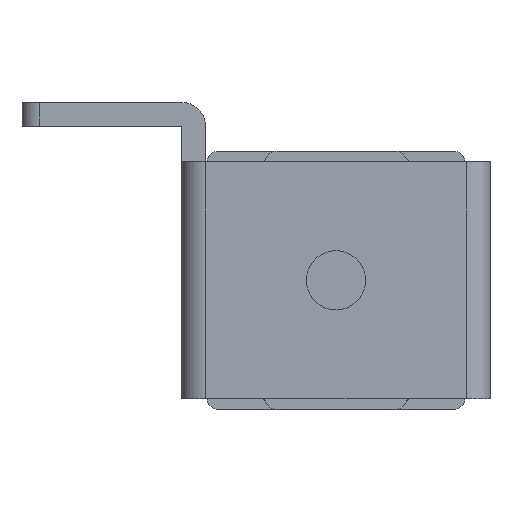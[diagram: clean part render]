
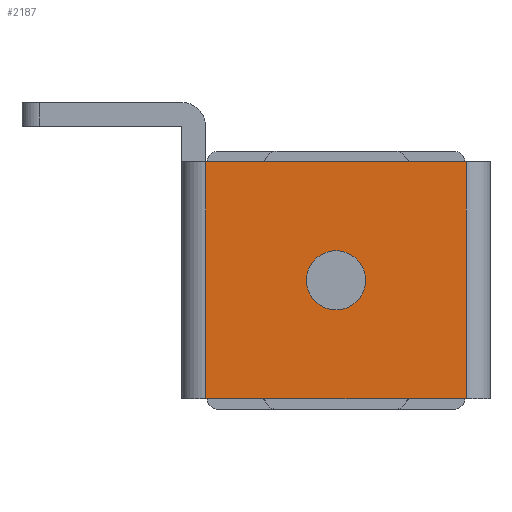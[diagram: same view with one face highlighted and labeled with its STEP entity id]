
A CAD part, front view. The second image highlights one B-rep face of the part: STEP entity #2187.
In plain terms, the highlighted planar face has unit normal (0, -1, 0).
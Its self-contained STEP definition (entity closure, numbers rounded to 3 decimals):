
#70 = DIRECTION ( 'NONE',  ( 0., 0., -1. ) ) ;
#345 = PLANE ( 'NONE',  #2321 ) ;
#401 = DIRECTION ( 'NONE',  ( -1., 0., 0. ) ) ;
#575 = FACE_BOUND ( 'NONE', #1684, .T. ) ;
#659 = ORIENTED_EDGE ( 'NONE', *, *, #2861, .F. ) ;
#701 = CARTESIAN_POINT ( 'NONE',  ( 0., -61.1, -12.5 ) ) ;
#765 = ORIENTED_EDGE ( 'NONE', *, *, #2195, .T. ) ;
#860 = EDGE_CURVE ( 'NONE', #1048, #976, #1497, .T. ) ;
#872 = CARTESIAN_POINT ( 'NONE',  ( 0., -61.1, -10. ) ) ;
#892 = CARTESIAN_POINT ( 'NONE',  ( 0., -61.1, -10. ) ) ;
#976 = VERTEX_POINT ( 'NONE', #3498 ) ;
#1048 = VERTEX_POINT ( 'NONE', #3133 ) ;
#1283 = DIRECTION ( 'NONE',  ( 0., 0., 1. ) ) ;
#1296 = DIRECTION ( 'NONE',  ( 0., 0., 1. ) ) ;
#1299 = CARTESIAN_POINT ( 'NONE',  ( 11., -61.1, 0. ) ) ;
#1360 = CARTESIAN_POINT ( 'NONE',  ( 0., -61.1, -20. ) ) ;
#1463 = EDGE_CURVE ( 'NONE', #976, #4049, #2867, .T. ) ;
#1497 = LINE ( 'NONE', #1360, #4550 ) ;
#1536 = VECTOR ( 'NONE', #401, 1000. ) ;
#1582 = CARTESIAN_POINT ( 'NONE',  ( 0., -61.1, -7.5 ) ) ;
#1626 = CARTESIAN_POINT ( 'NONE',  ( -11., -61.1, -20. ) ) ;
#1674 = CIRCLE ( 'NONE', #4336, 2.5 ) ;
#1684 = EDGE_LOOP ( 'NONE', ( #659, #5299 ) ) ;
#1782 = DIRECTION ( 'NONE',  ( 1., 0., 0. ) ) ;
#2046 = DIRECTION ( 'NONE',  ( 0., 0., 1. ) ) ;
#2187 = ADVANCED_FACE ( 'NONE', ( #575, #3877 ), #345, .F. ) ;
#2195 = EDGE_CURVE ( 'NONE', #4049, #2855, #3744, .T. ) ;
#2321 = AXIS2_PLACEMENT_3D ( 'NONE', #1626, #4533, #2046 ) ;
#2540 = CARTESIAN_POINT ( 'NONE',  ( -11., -61.1, -10. ) ) ;
#2612 = VERTEX_POINT ( 'NONE', #701 ) ;
#2855 = VERTEX_POINT ( 'NONE', #4991 ) ;
#2861 = EDGE_CURVE ( 'NONE', #3276, #2612, #1674, .T. ) ;
#2867 = LINE ( 'NONE', #4251, #4958 ) ;
#2896 = EDGE_CURVE ( 'NONE', #2612, #3276, #5235, .T. ) ;
#2917 = EDGE_CURVE ( 'NONE', #2855, #1048, #3002, .T. ) ;
#3002 = LINE ( 'NONE', #2540, #4109 ) ;
#3011 = DIRECTION ( 'NONE',  ( 0., 0., 1. ) ) ;
#3133 = CARTESIAN_POINT ( 'NONE',  ( -11., -61.1, -20. ) ) ;
#3276 = VERTEX_POINT ( 'NONE', #1582 ) ;
#3498 = CARTESIAN_POINT ( 'NONE',  ( 11., -61.1, -20. ) ) ;
#3744 = LINE ( 'NONE', #4106, #1536 ) ;
#3765 = DIRECTION ( 'NONE',  ( 0., -1., 0. ) ) ;
#3780 = DIRECTION ( 'NONE',  ( 0., -1., 0. ) ) ;
#3877 = FACE_OUTER_BOUND ( 'NONE', #4930, .T. ) ;
#4049 = VERTEX_POINT ( 'NONE', #1299 ) ;
#4106 = CARTESIAN_POINT ( 'NONE',  ( 0., -61.1, 0. ) ) ;
#4109 = VECTOR ( 'NONE', #70, 1000. ) ;
#4251 = CARTESIAN_POINT ( 'NONE',  ( 11., -61.1, -10. ) ) ;
#4336 = AXIS2_PLACEMENT_3D ( 'NONE', #872, #3765, #1283 ) ;
#4338 = ORIENTED_EDGE ( 'NONE', *, *, #1463, .T. ) ;
#4403 = ORIENTED_EDGE ( 'NONE', *, *, #2917, .T. ) ;
#4533 = DIRECTION ( 'NONE',  ( 0., 1., 0. ) ) ;
#4550 = VECTOR ( 'NONE', #1782, 1000. ) ;
#4902 = AXIS2_PLACEMENT_3D ( 'NONE', #892, #3780, #1296 ) ;
#4930 = EDGE_LOOP ( 'NONE', ( #5275, #4338, #765, #4403 ) ) ;
#4958 = VECTOR ( 'NONE', #3011, 1000. ) ;
#4991 = CARTESIAN_POINT ( 'NONE',  ( -11., -61.1, 0. ) ) ;
#5235 = CIRCLE ( 'NONE', #4902, 2.5 ) ;
#5275 = ORIENTED_EDGE ( 'NONE', *, *, #860, .T. ) ;
#5299 = ORIENTED_EDGE ( 'NONE', *, *, #2896, .F. ) ;
